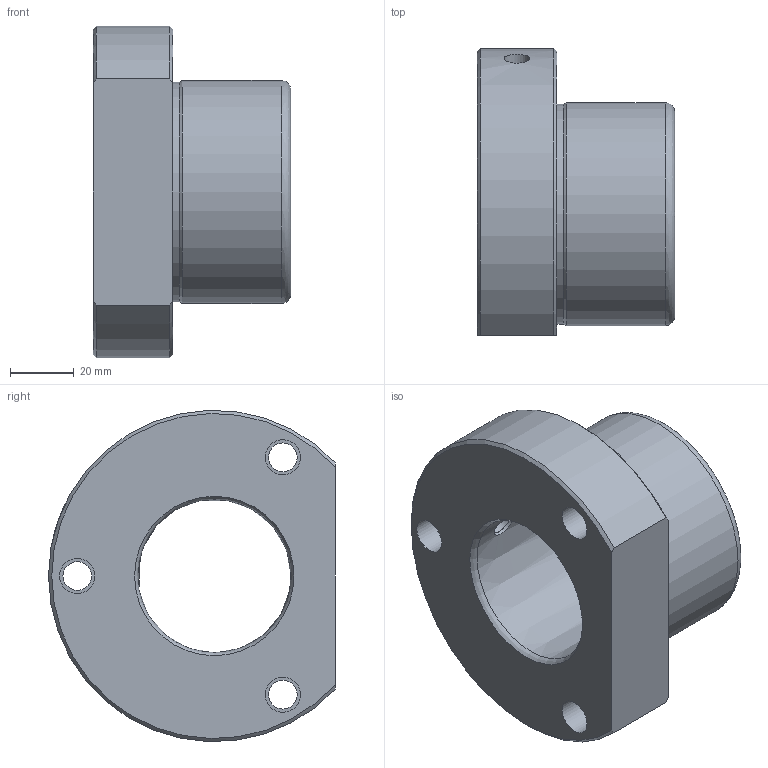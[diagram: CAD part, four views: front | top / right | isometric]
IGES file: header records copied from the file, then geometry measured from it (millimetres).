
Global section: file name: B5BA48-4.ipt; native system: Autodesk Inventor 2021; preprocessor: unknown; author: SM; date: 20220119.062125; units: millimetre
Bounding box: 62 x 90 x 103.94 mm (x, y, z)
Volume: 217326.5 mm3; surface area: 58705.7 mm2
Topology: 2 solids, 2 shells, 27 faces, 71 edges, 50 vertices
Faces by surface type: revolution 13, plane 7, cylinder 4, cone 3
Full cylindrical faces by diameter (mm): 50 x1, 69 x1, 70 x1
